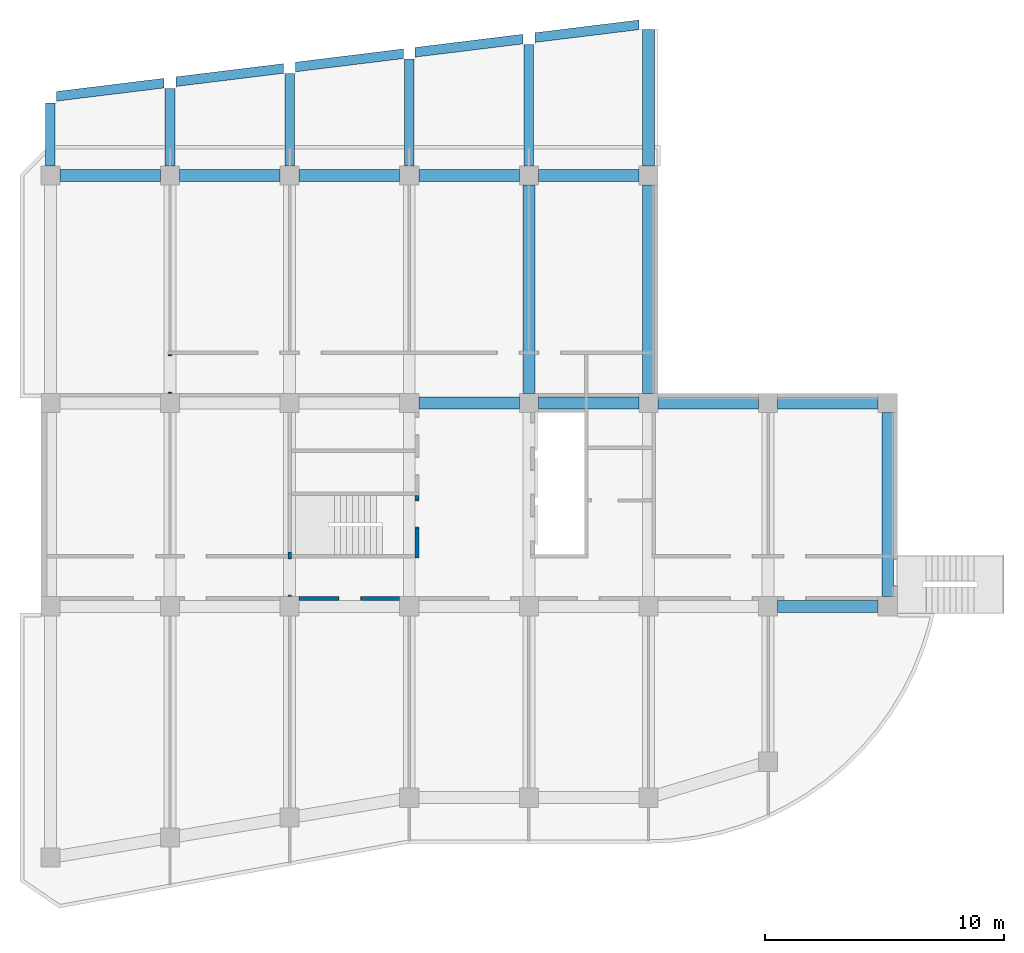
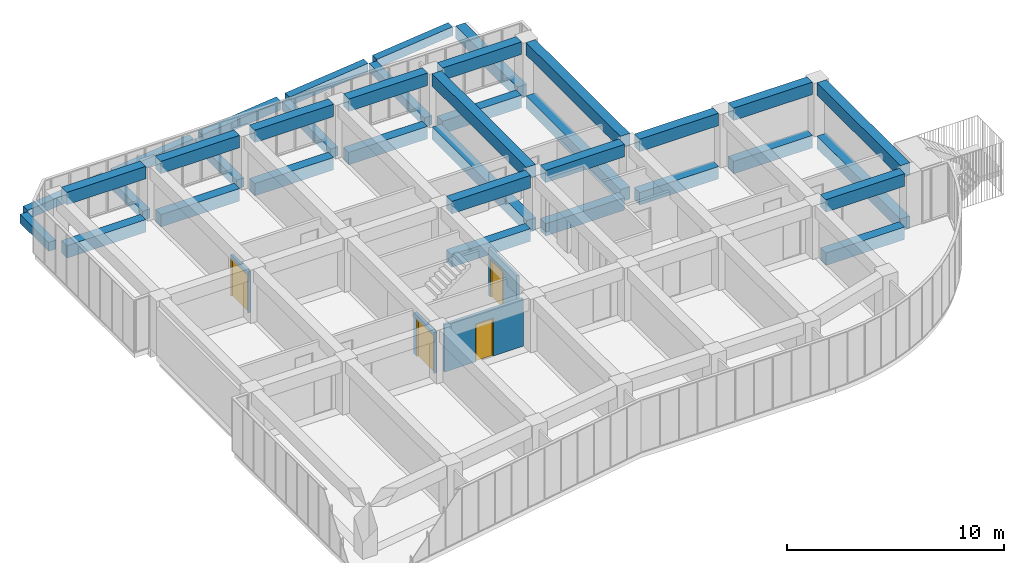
# One storey, part 1 of 6: 37 beams, 4 doors, 4 walls, 4 openings.
"""IFC2X3 building model written with IfcOpenShell, lengths in millimetres."""

from ifc_helpers import new_model, entity, si_unit, converted_unit, derived_unit, money_unit, direction, frame, origin_with_axes, place, context, subcontext, project, spatial, open_shell, faceted_brep, surface_model, source, transform, mapped, material, type_object, element, fill, save


model = new_model("IFC2X3")

# Units and contexts
model_context = context("Model", 3, precision=0.01, world=origin_with_axes(), true_north=direction((0.0, 1.0)))
body_context = subcontext(model_context, "Body", "Model", "MODEL_VIEW")
ifc_project = project(units=[si_unit("LENGTHUNIT", "METRE", prefix="MILLI"), si_unit("AREAUNIT", "SQUARE_METRE"), si_unit("VOLUMEUNIT", "CUBIC_METRE"), converted_unit("PLANEANGLEUNIT", "DEGREE", entity("IfcPlaneAngleMeasure", 0.0174532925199), si_unit("PLANEANGLEUNIT", "RADIAN"), dimensions=[0, 0, 0, 0, 0, 0, 0]), si_unit("SOLIDANGLEUNIT", "STERADIAN"), money_unit("JPY"), converted_unit("TIMEUNIT", "Year", entity("IfcTimeMeasure", 31556926.0), si_unit("TIMEUNIT", "SECOND"), dimensions=[0, 0, 1, 0, 0, 0, 0]), si_unit("MASSUNIT", "GRAM", prefix="KILO"), si_unit("THERMODYNAMICTEMPERATUREUNIT", "DEGREE_CELSIUS"), si_unit("LUMINOUSINTENSITYUNIT", "LUMEN"), si_unit("ENERGYUNIT", "JOULE", prefix="MEGA"), derived_unit("THERMALCONDUCTANCEUNIT", [(si_unit("POWERUNIT", "WATT"), 1), (si_unit("LENGTHUNIT", "METRE"), -1), (si_unit("THERMODYNAMICTEMPERATUREUNIT", "KELVIN"), -1)]), derived_unit("SPECIFICHEATCAPACITYUNIT", [(si_unit("ENERGYUNIT", "JOULE"), 1), (si_unit("MASSUNIT", "GRAM", prefix="KILO"), -1), (si_unit("THERMODYNAMICTEMPERATUREUNIT", "KELVIN"), -1)]), derived_unit("MASSDENSITYUNIT", [(si_unit("MASSUNIT", "GRAM", prefix="KILO"), 1), (si_unit("VOLUMEUNIT", "CUBIC_METRE"), -1)])], contexts=[model_context])

# Site, building, storey
site_placement = place(None, origin_with_axes())
site = spatial("IfcSite", under=ifc_project, at=site_placement, Name="サイト", CompositionType="ELEMENT")
building_placement = place(site_placement, origin_with_axes())
building = spatial("IfcBuilding", under=site, at=building_placement, Name="建築", CompositionType="ELEMENT")
storey_placement = place(building_placement, frame((0.0, 0.0, 6000.0), z_axis=(0.0, 0.0, 1.0), x_axis=(1.0, 0.0, 0.0)))
storey = spatial("IfcBuildingStorey", under=building, at=storey_placement, Name="3FL", CompositionType="ELEMENT", Elevation=6000.0)

# Beams
ifc_material = material(Name="コンクリート")
beam_type_1 = type_object("IfcBeamType", Name="コンクリート 500 x 700", PredefinedType="NOTDEFINED")
for number, where, z_axis, x_axis, name in (
    (1, (5000.0, 18000.0, 3000.0), (0.0, 0.0, 1.0), (0.0, -1.0, 0.0), "G1"),
    (2, (10000.0, 18000.0, 3000.0), (0.0, 0.0, 1.0), (0.0, -1.0, 0.0), "G1"),
    (3, (25000.0, 8500.0, 3000.0), (0.0, 0.0, 1.0), (0.0, -1.0, 0.0), "G1"),
    (4, (0.0, 18000.0, 3000.0), (0.0, 0.0, 1.0), (0.0, -1.0, 0.0), "G1"),
):
    element("IfcBeam", number, at=place(storey_placement, frame(where, z_axis=z_axis, x_axis=x_axis)), inside=storey, type_object=beam_type_1, material=ifc_material, Name=name, context=body_context, shape_type="Brep", body=[
        faceted_brep([(250.0, 400.0, 0.0), (250.0, 4600.0, 0.0), (-250.0, 4600.0, 0.0), (-250.0, 400.0, 0.0), (250.0, 400.0, -700.0), (250.0, 4600.0, -700.0), (-250.0, 4600.0, -700.0), (-250.0, 400.0, -700.0)], [[[0, 1, 2, 3]], [[4, 5, 1, 0]], [[5, 6, 2, 1]], [[3, 2, 6, 7]], [[4, 0, 3, 7]], [[7, 6, 5, 4]]]),
    ])
beam_1_placement = place(storey_placement, frame((25000.0, 18000.0, 3000.0), z_axis=(0.0, 0.0, 1.0), x_axis=(-1.0, 0.0, 0.0)))
element("IfcBeam", 5, at=beam_1_placement, inside=storey, type_object=beam_type_1, material=ifc_material, Name="G1", context=body_context, shape_type="Brep", body=[
    faceted_brep([(250.0, 400.0, 0.0), (250.0, 9100.0, 0.0), (-250.0, 9100.0, 0.0), (-250.0, 400.0, 0.0), (250.0, 400.0, -700.0), (250.0, 9100.0, -700.0), (-250.0, 9100.0, -700.0), (-250.0, 400.0, -700.0)], [[[0, 1, 2, 3]], [[4, 5, 1, 0]], [[5, 6, 2, 1]], [[3, 2, 6, 7]], [[4, 0, 3, 7]], [[7, 6, 5, 4]]]),
])
beam_2_placement = place(storey_placement, frame((35000.0, 8500.0, 3000.0), z_axis=(0.0, 0.0, 1.0), x_axis=(-1.0, 0.0, 0.0)))
element("IfcBeam", 6, at=beam_2_placement, inside=storey, type_object=beam_type_1, material=ifc_material, Name="G1", context=body_context, shape_type="Brep", body=[
    faceted_brep([(250.0, 400.0, 0.0), (250.0, 8100.0, 0.0), (-250.0, 8100.0, 0.0), (-250.0, 400.0, 0.0), (250.0, 400.0, -700.0), (250.0, 8100.0, -700.0), (-250.0, 8100.0, -700.0), (-250.0, 400.0, -700.0)], [[[0, 1, 2, 3]], [[4, 5, 1, 0]], [[5, 6, 2, 1]], [[3, 2, 6, 7]], [[4, 0, 3, 7]], [[7, 6, 5, 4]]]),
])
beam_3_placement = place(storey_placement, frame((20000.0, 18000.0, 3000.0), z_axis=(0.0, 0.0, 1.0), x_axis=(-1.0, 0.0, 0.0)))
element("IfcBeam", 7, at=beam_3_placement, inside=storey, type_object=beam_type_1, material=ifc_material, Name="G1", context=body_context, shape_type="Brep", body=[
    faceted_brep([(250.0, 400.0, 0.0), (250.0, 9100.0, 0.0), (-250.0, 9100.0, 0.0), (-250.0, 400.0, 0.0), (250.0, 400.0, -700.0), (250.0, 9100.0, -700.0), (-250.0, 9100.0, -700.0), (-250.0, 400.0, -700.0)], [[[0, 1, 2, 3]], [[4, 5, 1, 0]], [[5, 6, 2, 1]], [[3, 2, 6, 7]], [[4, 0, 3, 7]], [[7, 6, 5, 4]]]),
])
for number, where, z_axis, x_axis, name in (
    (8, (20000.0, 18000.0, 3000.0), (0.0, 0.0, 1.0), (0.0, -1.0, 0.0), "G1"),
    (9, (15000.0, 18000.0, 3000.0), (0.0, 0.0, 1.0), (0.0, -1.0, 0.0), "G1"),
    (10, (30000.0, 8500.0, 3000.0), (0.0, 0.0, 1.0), (0.0, -1.0, 0.0), "G1"),
):
    element("IfcBeam", number, at=place(storey_placement, frame(where, z_axis=z_axis, x_axis=x_axis)), inside=storey, type_object=beam_type_1, material=ifc_material, Name=name, context=body_context, shape_type="Brep", body=[
        faceted_brep([(250.0, 400.0, 0.0), (250.0, 4600.0, 0.0), (-250.0, 4600.0, 0.0), (-250.0, 400.0, 0.0), (250.0, 400.0, -700.0), (250.0, 4600.0, -700.0), (-250.0, 4600.0, -700.0), (-250.0, 400.0, -700.0)], [[[0, 1, 2, 3]], [[4, 5, 1, 0]], [[5, 6, 2, 1]], [[3, 2, 6, 7]], [[4, 0, 3, 7]], [[7, 6, 5, 4]]]),
    ])
beam_4_placement = place(storey_placement, frame((30000.0, 0.0, 0.0), z_axis=(0.0, 0.0, 1.0), x_axis=(0.0, -1.0, 0.0)))
element("IfcBeam", 11, at=beam_4_placement, inside=storey, type_object=beam_type_1, material=ifc_material, Name="G1", context=body_context, shape_type="Brep", body=[
    faceted_brep([(-250.0, 4600.0, -700.0), (-250.0, 400.0, -700.0), (-250.0, 400.0, 0.0), (-250.0, 4600.0, 0.0), (250.0, 4600.0, -700.0), (250.0, 400.0, -700.0), (250.0, 400.0, 0.0), (250.0, 4600.0, 0.0)], [[[0, 1, 2, 3]], [[4, 5, 1, 0]], [[5, 6, 2, 1]], [[3, 2, 6, 7]], [[4, 0, 3, 7]], [[7, 6, 5, 4]]]),
])
for number, where, z_axis, x_axis, name in (
    (12, (15000.0, 8500.0, 0.0), (0.0, 0.0, 1.0), (0.0, -1.0, 0.0), "G1"),
    (13, (20000.0, 8500.0, 0.0), (0.0, 0.0, 1.0), (0.0, -1.0, 0.0), "G1"),
    (14, (25000.0, 8500.0, 0.0), (0.0, 0.0, 1.0), (0.0, -1.0, 0.0), "G1"),
    (15, (30000.0, 8500.0, 0.0), (0.0, 0.0, 1.0), (0.0, -1.0, 0.0), "G1"),
):
    element("IfcBeam", number, at=place(storey_placement, frame(where, z_axis=z_axis, x_axis=x_axis)), inside=storey, type_object=beam_type_1, material=ifc_material, Name=name, context=body_context, shape_type="Brep", body=[
        faceted_brep([(250.0, 400.0, 0.0), (250.0, 4600.0, 0.0), (-250.0, 4600.0, 0.0), (-250.0, 400.0, 0.0), (250.0, 400.0, -700.0), (250.0, 4600.0, -700.0), (-250.0, 4600.0, -700.0), (-250.0, 400.0, -700.0)], [[[0, 1, 2, 3]], [[4, 5, 1, 0]], [[5, 6, 2, 1]], [[3, 2, 6, 7]], [[4, 0, 3, 7]], [[7, 6, 5, 4]]]),
    ])
beam_5_placement = place(storey_placement, frame((35000.0, 8500.0, 0.0), z_axis=(0.0, 0.0, 1.0), x_axis=(-1.0, 0.0, 0.0)))
element("IfcBeam", 16, at=beam_5_placement, inside=storey, type_object=beam_type_1, material=ifc_material, Name="G1", context=body_context, shape_type="Brep", body=[
    faceted_brep([(250.0, 400.0, 0.0), (250.0, 8100.0, 0.0), (-250.0, 8100.0, 0.0), (-250.0, 400.0, 0.0), (250.0, 400.0, -700.0), (250.0, 8100.0, -700.0), (-250.0, 8100.0, -700.0), (-250.0, 400.0, -700.0)], [[[0, 1, 2, 3]], [[4, 5, 1, 0]], [[5, 6, 2, 1]], [[3, 2, 6, 7]], [[4, 0, 3, 7]], [[7, 6, 5, 4]]]),
])
for number, where, z_axis, x_axis, name in (
    (17, (0.0, 18000.0, 0.0), (0.0, 0.0, 1.0), (0.0, -1.0, 0.0), "G1"),
    (18, (5000.0, 18000.0, 0.0), (0.0, 0.0, 1.0), (0.0, -1.0, 0.0), "G1"),
    (19, (10000.0, 18000.0, 0.0), (0.0, 0.0, 1.0), (0.0, -1.0, 0.0), "G1"),
    (20, (15000.0, 18000.0, 0.0), (0.0, 0.0, 1.0), (0.0, -1.0, 0.0), "G1"),
    (21, (20000.0, 18000.0, 0.0), (0.0, 0.0, 1.0), (0.0, -1.0, 0.0), "G1"),
):
    element("IfcBeam", number, at=place(storey_placement, frame(where, z_axis=z_axis, x_axis=x_axis)), inside=storey, type_object=beam_type_1, material=ifc_material, Name=name, context=body_context, shape_type="Brep", body=[
        faceted_brep([(250.0, 400.0, 0.0), (250.0, 4600.0, 0.0), (-250.0, 4600.0, 0.0), (-250.0, 400.0, 0.0), (250.0, 400.0, -700.0), (250.0, 4600.0, -700.0), (-250.0, 4600.0, -700.0), (-250.0, 400.0, -700.0)], [[[0, 1, 2, 3]], [[4, 5, 1, 0]], [[5, 6, 2, 1]], [[3, 2, 6, 7]], [[4, 0, 3, 7]], [[7, 6, 5, 4]]]),
    ])
for number, where, z_axis, x_axis, name in (
    (22, (25000.0, 18000.0, 0.0), (0.0, 0.0, 1.0), (-1.0, 0.0, 0.0), "G1"),
    (23, (20000.0, 18000.0, 0.0), (0.0, 0.0, 1.0), (-1.0, 0.0, 0.0), "G1"),
):
    element("IfcBeam", number, at=place(storey_placement, frame(where, z_axis=z_axis, x_axis=x_axis)), inside=storey, type_object=beam_type_1, material=ifc_material, Name=name, context=body_context, shape_type="Brep", body=[
        faceted_brep([(250.0, 400.0, 0.0), (250.0, 9100.0, 0.0), (-250.0, 9100.0, 0.0), (-250.0, 400.0, 0.0), (250.0, 400.0, -700.0), (250.0, 9100.0, -700.0), (-250.0, 9100.0, -700.0), (-250.0, 400.0, -700.0)], [[[0, 1, 2, 3]], [[4, 5, 1, 0]], [[5, 6, 2, 1]], [[3, 2, 6, 7]], [[4, 0, 3, 7]], [[7, 6, 5, 4]]]),
    ])
beam_6_placement = place(storey_placement, frame((25000.0, 18000.0, 0.0), z_axis=(0.0, 0.0, 1.0), x_axis=(1.0, 0.0, 0.0)))
element("IfcBeam", 24, at=beam_6_placement, inside=storey, type_object=beam_type_1, material=ifc_material, Name="G1", context=body_context, shape_type="Brep", body=[
    faceted_brep([(-250.0, 6102.64369919, 0.0), (-250.0, 400.0, 0.0), (250.000000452, 400.0, 0.0), (250.000004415, 6102.64369919, 0.0), (-250.0, 6102.64369919, -700.0), (-250.0, 400.0, -700.0), (250.0, 400.0, -700.0), (250.0, 6102.64369919, -700.0)], [[[0, 1, 2, 3]], [[4, 5, 1, 0]], [[5, 6, 2, 1]], [[3, 2, 6, 7]], [[4, 0, 3, 7]], [[7, 6, 5, 4]]]),
])
beam_7_placement = place(storey_placement, frame((30000.0, 0.0, 3000.0), z_axis=(0.0, 0.0, 1.0), x_axis=(0.0, -1.0, 0.0)))
element("IfcBeam", 25, at=beam_7_placement, inside=storey, type_object=beam_type_1, material=ifc_material, Name="G1", context=body_context, shape_type="Brep", body=[
    faceted_brep([(-250.0, 4600.0, -700.0), (-250.0, 400.0, -700.0), (-250.0, 400.0, 0.0), (-250.0, 4600.0, 0.0), (250.0, 4600.0, -700.0), (250.0, 400.0, -700.0), (250.0, 400.0, 0.0), (250.0, 4600.0, 0.0)], [[[0, 1, 2, 3]], [[4, 5, 1, 0]], [[5, 6, 2, 1]], [[3, 2, 6, 7]], [[4, 0, 3, 7]], [[7, 6, 5, 4]]]),
])
for number, where, z_axis, x_axis, name in (
    (26, (15000.0, 8500.0, 3000.0), (0.0, 0.0, 1.0), (0.0, -1.0, 0.0), "G1"),
    (27, (20000.0, 8500.0, 3000.0), (0.0, 0.0, 1.0), (0.0, -1.0, 0.0), "G1"),
):
    element("IfcBeam", number, at=place(storey_placement, frame(where, z_axis=z_axis, x_axis=x_axis)), inside=storey, type_object=beam_type_1, material=ifc_material, Name=name, context=body_context, shape_type="Brep", body=[
        faceted_brep([(250.0, 400.0, 0.0), (250.0, 4600.0, 0.0), (-250.0, 4600.0, 0.0), (-250.0, 400.0, 0.0), (250.0, 400.0, -700.0), (250.0, 4600.0, -700.0), (-250.0, 4600.0, -700.0), (-250.0, 400.0, -700.0)], [[[0, 1, 2, 3]], [[4, 5, 1, 0]], [[5, 6, 2, 1]], [[3, 2, 6, 7]], [[4, 0, 3, 7]], [[7, 6, 5, 4]]]),
    ])
beam_type_2 = type_object("IfcBeamType", Name="コンクリート 400 x 500", PredefinedType="NOTDEFINED")
beam_8_placement = place(storey_placement, frame((0.0, 21283.0296766, 0.0), z_axis=(0.0, 0.0, 1.0), x_axis=(-1.0, 0.0, 0.0)))
element("IfcBeam", 28, at=beam_8_placement, inside=storey, type_object=beam_type_2, material=ifc_material, Name="G7", context=body_context, shape_type="Brep", body=[
    faceted_brep([(200.0, 250.0, 0.0), (200.0, 2883.02967662, 0.0), (-200.0, 2883.02967662, 0.0), (-200.0, 250.0, 0.0), (200.0, 250.0, -500.0), (200.0, 2883.02967662, -500.0), (-200.0, 2883.02967662, -500.0), (-200.0, 250.0, -500.0)], [[[0, 1, 2, 3]], [[4, 5, 1, 0]], [[5, 6, 2, 1]], [[3, 2, 6, 7]], [[4, 0, 3, 7]], [[7, 6, 5, 4]]]),
])
beam_9_placement = place(storey_placement, frame((20000.0, 18000.0, 0.0), z_axis=(0.0, 0.0, 1.0), x_axis=(1.0, 0.0, 0.0)))
element("IfcBeam", 29, at=beam_9_placement, inside=storey, type_object=beam_type_2, material=ifc_material, Name="G3", context=body_context, shape_type="Brep", body=[
    faceted_brep([(-200.0, 5488.72089468, 0.0), (-200.0, 400.0, 0.0), (200.0, 400.0, 0.0), (200.0, 5488.72089468, 0.0), (-200.0, 5488.72089468, -500.0), (-200.0, 400.0, -500.0), (200.0, 400.0, -500.0), (200.0, 5488.72089468, -500.0)], [[[0, 1, 2, 3]], [[4, 5, 1, 0]], [[5, 6, 2, 1]], [[3, 2, 6, 7]], [[4, 0, 3, 7]], [[7, 6, 5, 4]]]),
])
beam_10_placement = place(storey_placement, frame((15000.0, 23124.7980902, 0.0), z_axis=(0.0, 0.0, 1.0), x_axis=(-1.0, 0.0, 0.0)))
element("IfcBeam", 30, at=beam_10_placement, inside=storey, type_object=beam_type_2, material=ifc_material, Name="G4", context=body_context, shape_type="Brep", body=[
    faceted_brep([(200.0, 250.0, 0.0), (200.0, 4724.79809016, 0.0), (-200.0, 4724.79809016, 0.0), (-200.0, 250.0, 0.0), (200.0, 250.0, -500.0), (200.0, 4724.79809016, -500.0), (-200.0, 4724.79809016, -500.0), (-200.0, 250.0, -500.0)], [[[0, 1, 2, 3]], [[4, 5, 1, 0]], [[5, 6, 2, 1]], [[3, 2, 6, 7]], [[4, 0, 3, 7]], [[7, 6, 5, 4]]]),
])
beam_11_placement = place(storey_placement, frame((10000.0, 22510.8752856, 0.0), z_axis=(0.0, 0.0, 1.0), x_axis=(-1.0, 0.0, 0.0)))
element("IfcBeam", 31, at=beam_11_placement, inside=storey, type_object=beam_type_2, material=ifc_material, Name="G5", context=body_context, shape_type="Brep", body=[
    faceted_brep([(200.0, 250.0, 0.0), (200.0, 4110.87528565, 0.0), (-200.0, 4110.87528565, 0.0), (-200.0, 250.0, 0.0), (200.0, 250.0, -500.0), (200.0, 4110.87528565, -500.0), (-200.0, 4110.87528565, -500.0), (-200.0, 250.0, -500.0)], [[[0, 1, 2, 3]], [[4, 5, 1, 0]], [[5, 6, 2, 1]], [[3, 2, 6, 7]], [[4, 0, 3, 7]], [[7, 6, 5, 4]]]),
])
beam_12_placement = place(storey_placement, frame((5000.0, 21896.9524811, 0.0), z_axis=(0.0, 0.0, 1.0), x_axis=(-1.0, 0.0, 0.0)))
element("IfcBeam", 32, at=beam_12_placement, inside=storey, type_object=beam_type_2, material=ifc_material, Name="G6", context=body_context, shape_type="Brep", body=[
    faceted_brep([(200.0, 250.0, 0.0), (200.0, 3496.95248113, 0.0), (-200.0, 3496.95248113, 0.0), (-200.0, 250.0, 0.0), (200.0, 250.0, -500.0), (200.0, 3496.95248113, -500.0), (-200.0, 3496.95248113, -500.0), (-200.0, 250.0, -500.0)], [[[0, 1, 2, 3]], [[4, 5, 1, 0]], [[5, 6, 2, 1]], [[3, 2, 6, 7]], [[4, 0, 3, 7]], [[7, 6, 5, 4]]]),
])
beam_13_placement = place(storey_placement, frame((20000.0, 23738.7208947, 0.0), z_axis=(0.0, 0.0, 1.0), x_axis=(0.121869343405, -0.992546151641, 0.0)))
element("IfcBeam", 33, at=beam_13_placement, inside=storey, type_object=beam_type_2, material=ifc_material, Name="G3", context=body_context, shape_type="Brep", body=[
    faceted_brep([(200.0, 227.320544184, -500.0), (200.0, 4615.04115086, -500.0), (200.0, 4615.04115086, 0.0), (200.0, 227.320544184, 0.0), (-199.999999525, 4659.10210923, -500.0), (199.388800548, 4610.06333079, -500.0), (-199.999999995, 276.434368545, -500.0), (199.388800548, 4610.06333079, 0.0), (-199.999999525, 4659.10210923, 0.0), (-199.999999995, 276.434368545, 0.0)], [[[0, 1, 2, 3]], [[4, 5, 1, 0, 6]], [[5, 7, 2, 1]], [[2, 7, 8, 9, 3]], [[0, 3, 9, 6]], [[5, 4, 8, 7]], [[9, 8, 4, 6]]]),
])
for number, where, z_axis, x_axis, name in (
    (34, (20000.0, 23738.7208947, 0.0), (0.0, 0.0, 1.0), (-0.121869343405, 0.992546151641, 0.0), "G4"),
    (35, (15000.0, 23124.7980902, 0.0), (0.0, 0.0, 1.0), (-0.121869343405, 0.992546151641, 0.0), "G5"),
    (36, (10000.0, 22510.8752856, 0.0), (0.0, 0.0, 1.0), (-0.121869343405, 0.992546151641, 0.0), "G6"),
    (37, (5000.0, 21896.9524811, 0.0), (0.0, 0.0, 1.0), (-0.121869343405, 0.992546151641, 0.0), "G7"),
):
    element("IfcBeam", number, at=place(storey_placement, frame(where, z_axis=z_axis, x_axis=x_axis)), inside=storey, type_object=beam_type_2, material=ifc_material, Name=name, context=body_context, shape_type="Brep", body=[
        faceted_brep([(-200.0, 4810.22858311, 0.0), (-200.0, 276.434368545, 0.0), (200.0, 227.320544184, 0.0), (200.0, 4761.11475875, 0.0), (-200.0, 4810.22858311, -500.0), (-200.0, 276.434368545, -500.0), (200.0, 227.320544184, -500.0), (200.0, 4761.11475875, -500.0)], [[[0, 1, 2, 3]], [[4, 5, 1, 0]], [[5, 6, 2, 1]], [[3, 2, 6, 7]], [[4, 0, 3, 7]], [[7, 6, 5, 4]]]),
    ])

# Wall, opening, door
wall_type = type_object("IfcWallType", Name="コンクリート 150", PredefinedType="NOTDEFINED")
wall_1_placement = place(storey_placement, frame((5000.0, 10600.0, 0.0), z_axis=(0.0, 0.0, 1.0), x_axis=(0.0, -1.0, 0.0)))
wall_1 = element("IfcWall", 38, at=wall_1_placement, inside=storey, type_object=wall_type, material=ifc_material, Name="W9", context=body_context, shape_type="Brep", body=[
    faceted_brep([(1670.0, 75.0, 0.0), (1670.0, 75.0, 2130.0), (110.0, 75.0, 2130.0), (110.0, 75.0, 0.0), (75.0, 75.0, 0.0), (75.0, 75.0, 2300.0), (1699.999955, 75.0, 2300.0), (1699.999955, 75.0, 0.0), (1670.0, -75.0, 0.0), (1670.0, -75.0, 2130.0), (110.0, -75.0, 2130.0), (110.0, -75.0, 0.0), (75.0, -75.0, 0.0), (75.0, -75.0, 2300.0), (1699.999955, -75.0, 2300.0), (1699.999955, 0.0, 2300.0), (1699.999955, 0.0, 0.0), (1699.999955, -75.0, 0.0)], [[[0, 1, 2, 3, 4, 5, 6, 7]], [[1, 0, 8, 9]], [[2, 1, 9, 10]], [[3, 2, 10, 11]], [[3, 11, 12, 4]], [[12, 13, 5, 4]], [[6, 5, 13, 14, 15]], [[7, 6, 15, 16]], [[8, 0, 7, 16, 17]], [[9, 8, 17, 14, 13, 12, 11, 10]], [[16, 15, 14, 17]]]),
])
opening_1_placement = place(wall_1_placement, frame((890.0, 0.0, 0.0), z_axis=(0.0, 0.0, 1.0), x_axis=(1.0, 0.0, 0.0)))
opening_1 = element("IfcOpeningElement", 39, at=opening_1_placement, cuts=wall_1, Name="SD3", context=body_context, shape_type="Brep", body=[
    faceted_brep([(-780.0, -160.0, 0.0), (-780.0, -160.0, 2130.0), (-780.0, 160.0, 2130.0), (-780.0, 160.0, 0.0), (780.0, -160.0, 0.0), (780.0, -160.0, 2130.0), (780.0, 160.0, 2130.0), (780.0, 160.0, 0.0)], [[[0, 1, 2, 3]], [[0, 4, 5, 1]], [[1, 5, 6, 2]], [[3, 2, 6, 7]], [[4, 0, 3, 7]], [[5, 4, 7, 6]]]),
])
door_style_1 = type_object("IfcDoorStyle", Name="親子開き戸", ConstructionType="NOTDEFINED", OperationType="NOTDEFINED", ParameterTakesPrecedence=False, Sizeable=False)
shared_shape_1 = source(origin_with_axes(), body_context, "Body", "SurfaceModel", [
    surface_model("IfcShellBasedSurfaceModel", [(-150.0, -85.0, 0.0), (-150.0, -85.0, 2100.0), (750.0, -85.0, 2100.0), (750.0, -85.0, 0.0)], [open_shell([[[0, 1, 2, 3]]])]),
    surface_model("IfcShellBasedSurfaceModel", [(-150.0, -85.0, 0.0), (-750.0, -85.0, 0.0), (-750.0, -85.0, 2100.0), (-150.0, -85.0, 2100.0)], [open_shell([[[0, 1, 2, 3]]])]),
    surface_model("IfcShellBasedSurfaceModel", [(-780.0, -10.0, 0.0), (-780.0, -10.0, 2130.0), (780.0, -10.0, 2130.0), (780.0, -10.0, 0.0), (750.0, -10.0, 0.0), (750.0, -10.0, 2100.0), (-750.0, -10.0, 2100.0), (-750.0, -10.0, 0.0)], [open_shell([[[0, 1, 2, 3, 4, 5, 6, 7]]])]),
    surface_model("IfcShellBasedSurfaceModel", [(-780.0, -160.0, 0.0), (-780.0, -160.0, 2130.0), (780.0, -160.0, 2130.0), (780.0, -160.0, 0.0), (750.0, -160.0, 0.0), (750.0, -160.0, 2100.0), (-750.0, -160.0, 2100.0), (-750.0, -160.0, 0.0)], [open_shell([[[0, 1, 2, 3, 4, 5, 6, 7]]])]),
    surface_model("IfcShellBasedSurfaceModel", [(-750.0, -10.0, 0.0), (-750.0, -10.0, 2100.0), (-750.0, -160.0, 2100.0), (-750.0, -160.0, 0.0), (750.0, -10.0, 2100.0), (750.0, -160.0, 2100.0), (-780.0, -10.0, 0.0), (-780.0, -160.0, 0.0), (750.0, -10.0, 0.0), (750.0, -160.0, 0.0), (-780.0, -10.0, 2130.0), (-780.0, -160.0, 2130.0), (780.0, -10.0, 0.0), (780.0, -160.0, 0.0), (780.0, -10.0, 2130.0), (780.0, -160.0, 2130.0)], [open_shell([[[0, 1, 2, 3]], [[1, 4, 5, 2]], [[6, 0, 3, 7]], [[4, 8, 9, 5]], [[10, 6, 7, 11]], [[8, 12, 13, 9]], [[14, 10, 11, 15]], [[12, 14, 15, 13]]])]),
])
door_1_placement = place(opening_1_placement, frame((-750.0, 0.0, 0.0), z_axis=(0.0, 0.0, 1.0), x_axis=(1.0, 0.0, 0.0)))
door_1 = element("IfcDoor", 40, at=door_1_placement, inside=storey, type_object=door_style_1, Name="SD3", OverallHeight=2165.0, OverallWidth=1630.0, context=body_context, shape_type="MappedRepresentation", body=[
    mapped(shared_shape_1, transform((750.0, 85.0, 0.0))),
])
fill(opening_1, door_1)

wall_2_placement = place(storey_placement, frame((15324.9999955, 2100.0, 0.0), z_axis=(0.0, 0.0, 1.0), x_axis=(0.0, 1.0, 0.0)))
wall_2 = element("IfcWall", 41, at=wall_2_placement, inside=storey, type_object=wall_type, material=ifc_material, Name="W4", context=body_context, shape_type="Brep", body=[
    faceted_brep([(1180.0, -75.0, 0.0), (1180.0, -75.0, 2130.0), (2340.0, -75.0, 2130.0), (2340.0, -75.0, 0.0), (2525.0, -75.0, 0.0), (2525.0, -75.0, 2650.0), (-75.0, -75.0, 2650.0), (-75.0, -75.0, 0.0), (1180.0, 75.0, 0.0), (1180.0, 75.0, 2130.0), (2340.0, 75.0, 2130.0), (2340.0, 75.0, 0.0), (2525.0, 75.0, 0.0), (2525.0, 75.0, 2650.0), (-75.0, 75.0, 2650.0), (-75.0, 75.0, 0.0)], [[[0, 1, 2, 3, 4, 5, 6, 7]], [[1, 0, 8, 9]], [[2, 1, 9, 10]], [[3, 2, 10, 11]], [[3, 11, 12, 4]], [[12, 13, 5, 4]], [[14, 6, 5, 13]], [[7, 6, 14, 15]], [[8, 0, 7, 15]], [[9, 8, 15, 14, 13, 12, 11, 10]]]),
])
opening_2_placement = place(wall_2_placement, frame((1760.0, 0.0, 0.0), z_axis=(0.0, 0.0, 1.0), x_axis=(1.0, 0.0, 0.0)))
opening_2 = element("IfcOpeningElement", 42, at=opening_2_placement, cuts=wall_2, Name="FSD2", context=body_context, shape_type="Brep", body=[
    faceted_brep([(-580.0, -160.0, 0.0), (-580.0, -160.0, 2130.0), (-580.0, 160.0, 2130.0), (-580.0, 160.0, 0.0), (580.0, -160.0, 0.0), (580.0, -160.0, 2130.0), (580.0, 160.0, 2130.0), (580.0, 160.0, 0.0)], [[[0, 1, 2, 3]], [[0, 4, 5, 1]], [[1, 5, 6, 2]], [[3, 2, 6, 7]], [[4, 0, 3, 7]], [[5, 4, 7, 6]]]),
])
door_style_2 = type_object("IfcDoorStyle", Name="片開き戸", ConstructionType="NOTDEFINED", OperationType="NOTDEFINED", ParameterTakesPrecedence=False, Sizeable=False)
shared_shape_2 = source(origin_with_axes(), body_context, "Body", "SurfaceModel", [
    surface_model("IfcShellBasedSurfaceModel", [(-550.0, -85.0, 0.0), (-550.0, -85.0, 2100.0), (550.0, -85.0, 2100.0), (550.0, -85.0, 0.0)], [open_shell([[[0, 1, 2, 3]]])]),
    surface_model("IfcShellBasedSurfaceModel", [(-580.0, -10.0, 0.0), (-580.0, -10.0, 2130.0), (580.0, -10.0, 2130.0), (580.0, -10.0, 0.0), (550.0, -10.0, 0.0), (550.0, -10.0, 2100.0), (-550.0, -10.0, 2100.0), (-550.0, -10.0, 0.0)], [open_shell([[[0, 1, 2, 3, 4, 5, 6, 7]]])]),
    surface_model("IfcShellBasedSurfaceModel", [(-580.0, -160.0, 0.0), (-580.0, -160.0, 2130.0), (580.0, -160.0, 2130.0), (580.0, -160.0, 0.0), (550.0, -160.0, 0.0), (550.0, -160.0, 2100.0), (-550.0, -160.0, 2100.0), (-550.0, -160.0, 0.0)], [open_shell([[[0, 1, 2, 3, 4, 5, 6, 7]]])]),
    surface_model("IfcShellBasedSurfaceModel", [(-550.0, -10.0, 0.0), (-550.0, -10.0, 2100.0), (-550.0, -160.0, 2100.0), (-550.0, -160.0, 0.0), (550.0, -10.0, 2100.0), (550.0, -160.0, 2100.0), (-580.0, -10.0, 0.0), (-580.0, -160.0, 0.0), (550.0, -10.0, 0.0), (550.0, -160.0, 0.0), (-580.0, -10.0, 2130.0), (-580.0, -160.0, 2130.0), (580.0, -10.0, 0.0), (580.0, -160.0, 0.0), (580.0, -10.0, 2130.0), (580.0, -160.0, 2130.0)], [open_shell([[[0, 1, 2, 3]], [[1, 4, 5, 2]], [[6, 0, 3, 7]], [[4, 8, 9, 5]], [[10, 6, 7, 11]], [[8, 12, 13, 9]], [[14, 10, 11, 15]], [[12, 14, 15, 13]]])]),
])
door_2_placement = place(opening_2_placement, frame((-550.0, 0.0, 0.0), z_axis=(0.0, 0.0, 1.0), x_axis=(1.0, 0.0, 0.0)))
door_2 = element("IfcDoor", 43, at=door_2_placement, inside=storey, type_object=door_style_2, Name="FSD2", OverallHeight=2165.0, OverallWidth=1230.0, context=body_context, shape_type="MappedRepresentation", body=[
    mapped(shared_shape_2, transform((550.0, 85.0, 0.0))),
])
fill(opening_2, door_2)

wall_3_placement = place(storey_placement, frame((10000.0, 324.999998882, 0.0), z_axis=(0.0, 0.0, 1.0), x_axis=(1.0, 0.0, 0.0)))
wall_3 = element("IfcWall", 44, at=wall_3_placement, inside=storey, type_object=wall_type, material=ifc_material, Name="W4", context=body_context, shape_type="Brep", body=[
    faceted_brep([(2034.99999315, 75.0000011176, 2130.0), (2034.99999315, 75.0000011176, 0.0), (400.0, 75.0000011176, 0.0), (400.0, 75.0000011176, 2650.0), (4600.0, 75.0000011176, 2650.0), (4600.0, 75.0000011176, 0.0), (2994.99999315, 75.0000011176, 0.0), (2994.99999315, 75.0000011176, 2130.0), (2034.99999315, -74.9999988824, 2130.0), (2034.99999315, -75.0, 0.0), (400.0, -75.0, 0.0), (400.0, -74.9999988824, 2650.0), (4600.0, -74.9999988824, 2650.0), (4600.0, -75.0, 0.0), (2994.99999315, -75.0, 0.0), (2994.99999315, -74.9999988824, 2130.0)], [[[0, 1, 2, 3, 4, 5, 6, 7]], [[1, 0, 8, 9]], [[1, 9, 10, 2]], [[11, 3, 2, 10]], [[3, 11, 12, 4]], [[5, 4, 12, 13]], [[14, 6, 5, 13]], [[7, 6, 14, 15]], [[0, 7, 15, 8]], [[15, 14, 13, 12, 11, 10, 9, 8]]]),
])
opening_3_placement = place(wall_3_placement, frame((2514.99999315, 0.0, 0.0), z_axis=(0.0, 0.0, 1.0), x_axis=(1.0, 0.0, 0.0)))
opening_3 = element("IfcOpeningElement", 45, at=opening_3_placement, cuts=wall_3, Name="SD7", context=body_context, shape_type="Brep", body=[
    faceted_brep([(480.0, 160.0, 0.0), (480.0, 160.0, 2130.0), (480.0, -160.0, 2130.0), (480.0, -160.0, 0.0), (-480.0, 160.0, 0.0), (-480.0, 160.0, 2130.0), (-480.0, -160.0, 2130.0), (-480.0, -160.0, 0.0)], [[[0, 1, 2, 3]], [[0, 4, 5, 1]], [[1, 5, 6, 2]], [[3, 2, 6, 7]], [[4, 0, 3, 7]], [[5, 4, 7, 6]]]),
])
shared_shape_3 = source(origin_with_axes(), body_context, "Body", "SurfaceModel", [
    surface_model("IfcShellBasedSurfaceModel", [(-450.0, 85.0, 0.0), (-450.0, 85.0, 2100.0), (450.0, 85.0, 2100.0), (450.0, 85.0, 0.0)], [open_shell([[[0, 1, 2, 3]]])]),
    surface_model("IfcShellBasedSurfaceModel", [(-480.0, 160.0, 0.0), (-480.0, 160.0, 2130.0), (480.0, 160.0, 2130.0), (480.0, 160.0, 0.0), (450.0, 160.0, 0.0), (450.0, 160.0, 2100.0), (-450.0, 160.0, 2100.0), (-450.0, 160.0, 0.0)], [open_shell([[[0, 1, 2, 3, 4, 5, 6, 7]]])]),
    surface_model("IfcShellBasedSurfaceModel", [(-480.0, 10.0, 0.0), (-480.0, 10.0, 2130.0), (480.0, 10.0, 2130.0), (480.0, 10.0, 0.0), (450.0, 10.0, 0.0), (450.0, 10.0, 2100.0), (-450.0, 10.0, 2100.0), (-450.0, 10.0, 0.0)], [open_shell([[[0, 1, 2, 3, 4, 5, 6, 7]]])]),
    surface_model("IfcShellBasedSurfaceModel", [(-450.0, 160.0, 0.0), (-450.0, 160.0, 2100.0), (-450.0, 10.0, 2100.0), (-450.0, 10.0, 0.0), (450.0, 160.0, 2100.0), (450.0, 10.0, 2100.0), (-480.0, 160.0, 0.0), (-480.0, 10.0, 0.0), (450.0, 160.0, 0.0), (450.0, 10.0, 0.0), (-480.0, 160.0, 2130.0), (-480.0, 10.0, 2130.0), (480.0, 160.0, 0.0), (480.0, 10.0, 0.0), (480.0, 160.0, 2130.0), (480.0, 10.0, 2130.0)], [open_shell([[[0, 1, 2, 3]], [[1, 4, 5, 2]], [[6, 0, 3, 7]], [[4, 8, 9, 5]], [[10, 6, 7, 11]], [[8, 12, 13, 9]], [[14, 10, 11, 15]], [[12, 14, 15, 13]]])]),
])
door_3_placement = place(opening_3_placement, frame((450.0, 0.0, 0.0), z_axis=(0.0, 0.0, 1.0), x_axis=(-1.0, 0.0, 0.0)))
door_3 = element("IfcDoor", 46, at=door_3_placement, inside=storey, type_object=door_style_2, Name="SD7", OverallHeight=2165.0, OverallWidth=1030.0, context=body_context, shape_type="MappedRepresentation", body=[
    mapped(shared_shape_3, transform((450.0, -85.0, 0.0))),
])
fill(opening_3, door_3)

wall_4_placement = place(storey_placement, frame((10000.0, 324.999998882, 0.0), z_axis=(0.0, 0.0, 1.0), x_axis=(0.0, 1.0, 0.0)))
wall_4 = element("IfcWall", 47, at=wall_4_placement, inside=storey, type_object=wall_type, material=ifc_material, Name="W4", context=body_context, shape_type="Brep", body=[
    faceted_brep([(115.000001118, -75.0, 0.0), (115.000001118, -75.0, 2130.0), (1675.00000112, -75.0, 2130.0), (1675.00000112, -75.0, 0.0), (1950.00000112, -75.0, 0.0), (1950.00000112, -75.0, 2300.0), (75.0, -75.0, 2300.0), (75.0, -75.0, 0.0), (115.000001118, 75.0, 0.0), (115.000001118, 75.0, 2130.0), (1675.00000112, 75.0, 2130.0), (1675.00000112, 75.0, 0.0), (1950.00000112, 75.0, 0.0), (1950.00000112, 75.0, 2300.0), (75.0, 75.0, 2300.0), (75.0, 0.0, 2300.0), (75.0, 0.0, 0.0), (75.0, 75.0, 0.0)], [[[0, 1, 2, 3, 4, 5, 6, 7]], [[1, 0, 8, 9]], [[2, 1, 9, 10]], [[3, 2, 10, 11]], [[3, 11, 12, 4]], [[12, 13, 5, 4]], [[6, 5, 13, 14, 15]], [[7, 6, 15, 16]], [[8, 0, 7, 16, 17]], [[9, 8, 17, 14, 13, 12, 11, 10]], [[16, 15, 14, 17]]]),
])
opening_4_placement = place(wall_4_placement, frame((895.000001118, 0.0, 0.0), z_axis=(0.0, 0.0, 1.0), x_axis=(1.0, 0.0, 0.0)))
opening_4 = element("IfcOpeningElement", 48, at=opening_4_placement, cuts=wall_4, Name="SD3", context=body_context, shape_type="Brep", body=[
    faceted_brep([(-780.0, -160.0, 0.0), (-780.0, -160.0, 2130.0), (-780.0, 160.0, 2130.0), (-780.0, 160.0, 0.0), (780.0, -160.0, 0.0), (780.0, -160.0, 2130.0), (780.0, 160.0, 2130.0), (780.0, 160.0, 0.0)], [[[0, 1, 2, 3]], [[0, 4, 5, 1]], [[1, 5, 6, 2]], [[3, 2, 6, 7]], [[4, 0, 3, 7]], [[5, 4, 7, 6]]]),
])
shared_shape_4 = source(origin_with_axes(), body_context, "Body", "SurfaceModel", [
    surface_model("IfcShellBasedSurfaceModel", [(150.0, -85.0, 0.0), (-750.0, -85.0, 0.0), (-750.0, -85.0, 2100.0), (150.0, -85.0, 2100.0)], [open_shell([[[0, 1, 2, 3]]])]),
    surface_model("IfcShellBasedSurfaceModel", [(150.0, -85.0, 0.0), (150.0, -85.0, 2100.0), (750.0, -85.0, 2100.0), (750.0, -85.0, 0.0)], [open_shell([[[0, 1, 2, 3]]])]),
    surface_model("IfcShellBasedSurfaceModel", [(780.0, -10.0, 0.0), (750.0, -10.0, 0.0), (750.0, -10.0, 2100.0), (-750.0, -10.0, 2100.0), (-750.0, -10.0, 0.0), (-780.0, -10.0, 0.0), (-780.0, -10.0, 2130.0), (780.0, -10.0, 2130.0)], [open_shell([[[0, 1, 2, 3, 4, 5, 6, 7]]])]),
    surface_model("IfcShellBasedSurfaceModel", [(780.0, -160.0, 0.0), (750.0, -160.0, 0.0), (750.0, -160.0, 2100.0), (-750.0, -160.0, 2100.0), (-750.0, -160.0, 0.0), (-780.0, -160.0, 0.0), (-780.0, -160.0, 2130.0), (780.0, -160.0, 2130.0)], [open_shell([[[0, 1, 2, 3, 4, 5, 6, 7]]])]),
    surface_model("IfcShellBasedSurfaceModel", [(750.0, -10.0, 0.0), (750.0, -160.0, 0.0), (750.0, -160.0, 2100.0), (750.0, -10.0, 2100.0), (780.0, -10.0, 0.0), (780.0, -160.0, 0.0), (-750.0, -160.0, 2100.0), (-750.0, -10.0, 2100.0), (780.0, -10.0, 2130.0), (780.0, -160.0, 2130.0), (-750.0, -160.0, 0.0), (-750.0, -10.0, 0.0), (-780.0, -10.0, 2130.0), (-780.0, -160.0, 2130.0), (-780.0, -160.0, 0.0), (-780.0, -10.0, 0.0)], [open_shell([[[0, 1, 2, 3]], [[4, 5, 1, 0]], [[3, 2, 6, 7]], [[8, 9, 5, 4]], [[7, 6, 10, 11]], [[12, 13, 9, 8]], [[11, 10, 14, 15]], [[15, 14, 13, 12]]])]),
])
door_4_placement = place(opening_4_placement, frame((750.0, 0.0, 0.0), z_axis=(0.0, 0.0, 1.0), x_axis=(-1.0, 0.0, 0.0)))
door_4 = element("IfcDoor", 49, at=door_4_placement, inside=storey, type_object=door_style_1, Name="SD3", OverallHeight=2165.0, OverallWidth=1630.0, context=body_context, shape_type="MappedRepresentation", body=[
    mapped(shared_shape_4, transform((750.0, 85.0, 0.0))),
])
fill(opening_4, door_4)

save(model, "model.ifc")
